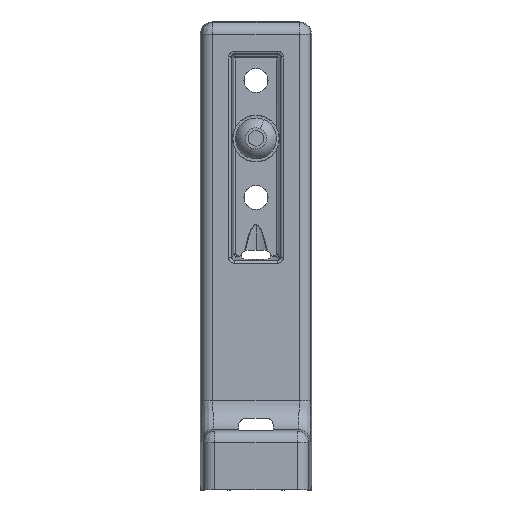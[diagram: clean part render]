
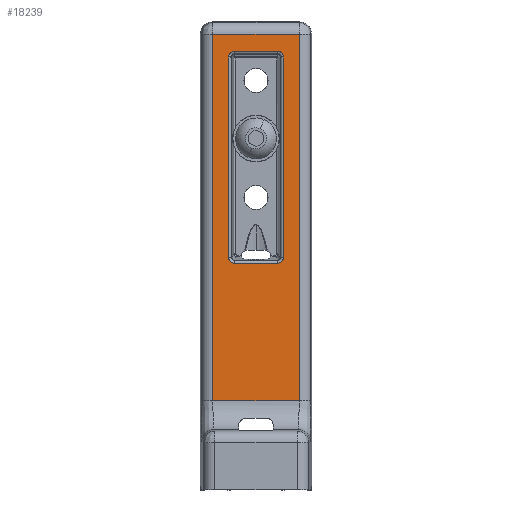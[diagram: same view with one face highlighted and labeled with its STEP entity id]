
A CAD part, top view. The second image highlights one B-rep face of the part: STEP entity #18239.
In plain terms, the highlighted planar face has unit normal (0, 0, 1).
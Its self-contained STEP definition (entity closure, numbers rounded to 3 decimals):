
#492 = CARTESIAN_POINT ( 'NONE',  ( 70.7, 26.998, -7.999 ) ) ;
#711 = CARTESIAN_POINT ( 'NONE',  ( 94.718, -21.474, -7.999 ) ) ;
#778 = CARTESIAN_POINT ( 'NONE',  ( 65.278, -21.474, -7.999 ) ) ;
#1101 = CARTESIAN_POINT ( 'NONE',  ( 89.347, 27.26, -7.999 ) ) ;
#1372 = CARTESIAN_POINT ( 'NONE',  ( 70.649, 27.522, -7.999 ) ) ;
#1616 =( BOUNDED_CURVE ( )  B_SPLINE_CURVE ( 3, ( #9388, #20930, #15181, #3750 ),
 .UNSPECIFIED., .F., .T. ) 
 B_SPLINE_CURVE_WITH_KNOTS ( ( 4, 4 ),
 ( 0., 1. ),
 .UNSPECIFIED. ) 
 CURVE ( )  GEOMETRIC_REPRESENTATION_ITEM ( )  RATIONAL_B_SPLINE_CURVE ( ( 1., 0.805, 0.805, 1. ) ) 
 REPRESENTATION_ITEM ( '' )  );
#2126 = ORIENTED_EDGE ( 'NONE', *, *, #23985, .F. ) ;
#2131 = EDGE_CURVE ( 'NONE', #10157, #3300, #21967, .T. ) ;
#2452 = CARTESIAN_POINT ( 'NONE',  ( 71.048, 26.293, -7.999 ) ) ;
#2489 = LINE ( 'NONE', #9776, #24761 ) ;
#2714 = VERTEX_POINT ( 'NONE', #1372 ) ;
#2727 = EDGE_CURVE ( 'NONE', #9991, #10157, #2489, .T. ) ;
#3039 = VECTOR ( 'NONE', #14073, 1000. ) ;
#3056 = ORIENTED_EDGE ( 'NONE', *, *, #20333, .F. ) ;
#3085 = DIRECTION ( 'NONE',  ( 0., -1., 0. ) ) ;
#3099 = AXIS2_PLACEMENT_3D ( 'NONE', #12829, #5371, #18773 ) ;
#3138 = EDGE_CURVE ( 'NONE', #17797, #20110, #9704, .T. ) ;
#3300 = VERTEX_POINT ( 'NONE', #711 ) ;
#3371 = B_SPLINE_CURVE_WITH_KNOTS ( 'NONE', 3,
 ( #16358, #6807, #20259, #8712, #22176, #10625, #24139, #12548, #1101, #14497 ),
 .UNSPECIFIED., .F., .F.,
 ( 4, 2, 2, 2, 4 ),
 ( 0., 0.25, 0.5, 0.75, 1. ),
 .UNSPECIFIED. ) ;
#3379 = FACE_BOUND ( 'NONE', #17095, .T. ) ;
#3750 = CARTESIAN_POINT ( 'NONE',  ( 87.398, 97.95, -7.999 ) ) ;
#4137 = ORIENTED_EDGE ( 'NONE', *, *, #13045, .F. ) ;
#4394 = CARTESIAN_POINT ( 'NONE',  ( 71.638, 25.776, -7.999 ) ) ;
#4451 = CARTESIAN_POINT ( 'NONE',  ( 70.649, 97.143, -7.999 ) ) ;
#4562 = LINE ( 'NONE', #22681, #19288 ) ;
#4684 = CARTESIAN_POINT ( 'NONE',  ( 70.649, 96.001, -7.999 ) ) ;
#4924 = EDGE_CURVE ( 'NONE', #20110, #17683, #10972, .T. ) ;
#5291 = DIRECTION ( 'NONE',  ( 1., 0., 0. ) ) ;
#5371 = DIRECTION ( 'NONE',  ( 0., 0., -1. ) ) ;
#5838 = ORIENTED_EDGE ( 'NONE', *, *, #2727, .F. ) ;
#5906 = CARTESIAN_POINT ( 'NONE',  ( 94.718, -31.999, -7.999 ) ) ;
#5978 = CARTESIAN_POINT ( 'NONE',  ( 87.353, 25.524, -7.999 ) ) ;
#6179 = VERTEX_POINT ( 'NONE', #778 ) ;
#6297 = CARTESIAN_POINT ( 'NONE',  ( 72.381, 25.524, -7.999 ) ) ;
#6576 = CARTESIAN_POINT ( 'NONE',  ( 72.598, 97.95, -7.999 ) ) ;
#6730 = LINE ( 'NONE', #7821, #19034 ) ;
#6775 = CARTESIAN_POINT ( 'NONE',  ( 87.398, 97.95, -7.999 ) ) ;
#6807 = CARTESIAN_POINT ( 'NONE',  ( 87.614, 25.524, -7.999 ) ) ;
#6840 = CARTESIAN_POINT ( 'NONE',  ( 65.278, 103.721, -7.999 ) ) ;
#6919 = CARTESIAN_POINT ( 'NONE',  ( 98.998, 97.95, -7.999 ) ) ;
#7555 = LINE ( 'NONE', #21826, #3039 ) ;
#7821 = CARTESIAN_POINT ( 'NONE',  ( 98.998, -21.474, -7.999 ) ) ;
#7922 = VERTEX_POINT ( 'NONE', #17216 ) ;
#8399 = EDGE_LOOP ( 'NONE', ( #23956, #5838, #2126, #19064 ) ) ;
#8712 = CARTESIAN_POINT ( 'NONE',  ( 88.358, 25.776, -7.999 ) ) ;
#9388 = CARTESIAN_POINT ( 'NONE',  ( 89.347, 96.001, -7.999 ) ) ;
#9704 = LINE ( 'NONE', #6919, #14463 ) ;
#9776 = CARTESIAN_POINT ( 'NONE',  ( 98.998, 103.721, -7.999 ) ) ;
#9871 = VERTEX_POINT ( 'NONE', #15960 ) ;
#9936 = CARTESIAN_POINT ( 'NONE',  ( 89.347, 27.522, -7.999 ) ) ;
#9991 = VERTEX_POINT ( 'NONE', #6840 ) ;
#10049 = CARTESIAN_POINT ( 'NONE',  ( 70.649, 27.26, -7.999 ) ) ;
#10157 = VERTEX_POINT ( 'NONE', #13837 ) ;
#10368 = B_SPLINE_CURVE_WITH_KNOTS ( 'NONE', 3,
 ( #23530, #10049, #492, #13899, #2452, #15816, #4394, #17766, #6297, #19721 ),
 .UNSPECIFIED., .F., .F.,
 ( 4, 2, 2, 2, 4 ),
 ( 0., 0.25, 0.5, 0.75, 1. ),
 .UNSPECIFIED. ) ;
#10625 = CARTESIAN_POINT ( 'NONE',  ( 88.948, 26.293, -7.999 ) ) ;
#10673 = EDGE_CURVE ( 'NONE', #3300, #6179, #6730, .T. ) ;
#10972 =( BOUNDED_CURVE ( )  B_SPLINE_CURVE ( 3, ( #20074, #21443, #4451, #4684 ),
 .UNSPECIFIED., .F., .T. ) 
 B_SPLINE_CURVE_WITH_KNOTS ( ( 4, 4 ),
 ( 0., 1. ),
 .UNSPECIFIED. ) 
 CURVE ( )  GEOMETRIC_REPRESENTATION_ITEM ( )  RATIONAL_B_SPLINE_CURVE ( ( 1., 0.805, 0.805, 1. ) ) 
 REPRESENTATION_ITEM ( '' )  );
#11644 = DIRECTION ( 'NONE',  ( -1., 0., 0. ) ) ;
#11787 = EDGE_CURVE ( 'NONE', #2714, #7922, #10368, .T. ) ;
#12548 = CARTESIAN_POINT ( 'NONE',  ( 89.295, 26.998, -7.999 ) ) ;
#12829 = CARTESIAN_POINT ( 'NONE',  ( 98.998, -31.999, -7.999 ) ) ;
#12976 = VECTOR ( 'NONE', #3085, 1000. ) ;
#13045 = EDGE_CURVE ( 'NONE', #17683, #2714, #17814, .T. ) ;
#13268 = ORIENTED_EDGE ( 'NONE', *, *, #3138, .F. ) ;
#13314 = VERTEX_POINT ( 'NONE', #5978 ) ;
#13606 = ORIENTED_EDGE ( 'NONE', *, *, #24744, .F. ) ;
#13837 = CARTESIAN_POINT ( 'NONE',  ( 94.718, 103.721, -7.999 ) ) ;
#13899 = CARTESIAN_POINT ( 'NONE',  ( 70.9, 26.515, -7.999 ) ) ;
#14073 = DIRECTION ( 'NONE',  ( 0., 1., 0. ) ) ;
#14463 = VECTOR ( 'NONE', #22207, 1000. ) ;
#14497 = CARTESIAN_POINT ( 'NONE',  ( 89.347, 27.522, -7.999 ) ) ;
#14806 = FACE_OUTER_BOUND ( 'NONE', #8399, .T. ) ;
#15181 = CARTESIAN_POINT ( 'NONE',  ( 88.539, 97.95, -7.999 ) ) ;
#15512 = DIRECTION ( 'NONE',  ( 0., -1., 0. ) ) ;
#15808 = ORIENTED_EDGE ( 'NONE', *, *, #24222, .F. ) ;
#15816 = CARTESIAN_POINT ( 'NONE',  ( 71.416, 25.924, -7.999 ) ) ;
#15846 = ORIENTED_EDGE ( 'NONE', *, *, #11787, .F. ) ;
#15960 = CARTESIAN_POINT ( 'NONE',  ( 89.347, 96.001, -7.999 ) ) ;
#16358 = CARTESIAN_POINT ( 'NONE',  ( 87.353, 25.524, -7.999 ) ) ;
#16517 = VERTEX_POINT ( 'NONE', #9936 ) ;
#16563 = CARTESIAN_POINT ( 'NONE',  ( 70.649, -31.999, -7.999 ) ) ;
#16731 = CARTESIAN_POINT ( 'NONE',  ( 98.998, 25.524, -7.999 ) ) ;
#17095 = EDGE_LOOP ( 'NONE', ( #22094, #13268, #3056, #15808, #22071, #13606, #15846, #4137 ) ) ;
#17216 = CARTESIAN_POINT ( 'NONE',  ( 72.642, 25.524, -7.999 ) ) ;
#17683 = VERTEX_POINT ( 'NONE', #23854 ) ;
#17766 = CARTESIAN_POINT ( 'NONE',  ( 72.12, 25.576, -7.999 ) ) ;
#17797 = VERTEX_POINT ( 'NONE', #6775 ) ;
#17814 = LINE ( 'NONE', #16563, #12976 ) ;
#18239 = ADVANCED_FACE ( 'NONE', ( #14806, #3379 ), #18689, .F. ) ;
#18243 = EDGE_CURVE ( 'NONE', #13314, #16517, #3371, .T. ) ;
#18689 = PLANE ( 'NONE',  #3099 ) ;
#18773 = DIRECTION ( 'NONE',  ( -1., 0., 0. ) ) ;
#19034 = VECTOR ( 'NONE', #11644, 1000. ) ;
#19064 = ORIENTED_EDGE ( 'NONE', *, *, #10673, .F. ) ;
#19288 = VECTOR ( 'NONE', #24646, 1000. ) ;
#19721 = CARTESIAN_POINT ( 'NONE',  ( 72.642, 25.524, -7.999 ) ) ;
#20074 = CARTESIAN_POINT ( 'NONE',  ( 72.598, 97.95, -7.999 ) ) ;
#20110 = VERTEX_POINT ( 'NONE', #6576 ) ;
#20259 = CARTESIAN_POINT ( 'NONE',  ( 87.875, 25.576, -7.999 ) ) ;
#20333 = EDGE_CURVE ( 'NONE', #9871, #17797, #1616, .T. ) ;
#20930 = CARTESIAN_POINT ( 'NONE',  ( 89.347, 97.143, -7.999 ) ) ;
#21364 = VECTOR ( 'NONE', #5291, 1000. ) ;
#21443 = CARTESIAN_POINT ( 'NONE',  ( 71.456, 97.95, -7.999 ) ) ;
#21826 = CARTESIAN_POINT ( 'NONE',  ( 65.278, -31.999, -7.999 ) ) ;
#21967 = LINE ( 'NONE', #5906, #23826 ) ;
#22071 = ORIENTED_EDGE ( 'NONE', *, *, #18243, .F. ) ;
#22094 = ORIENTED_EDGE ( 'NONE', *, *, #4924, .F. ) ;
#22176 = CARTESIAN_POINT ( 'NONE',  ( 88.579, 25.924, -7.999 ) ) ;
#22207 = DIRECTION ( 'NONE',  ( -1., 0., 0. ) ) ;
#22681 = CARTESIAN_POINT ( 'NONE',  ( 89.347, -31.999, -7.999 ) ) ;
#22876 = LINE ( 'NONE', #16731, #21364 ) ;
#23530 = CARTESIAN_POINT ( 'NONE',  ( 70.649, 27.522, -7.999 ) ) ;
#23826 = VECTOR ( 'NONE', #15512, 1000. ) ;
#23854 = CARTESIAN_POINT ( 'NONE',  ( 70.649, 96.001, -7.999 ) ) ;
#23956 = ORIENTED_EDGE ( 'NONE', *, *, #2131, .F. ) ;
#23985 = EDGE_CURVE ( 'NONE', #6179, #9991, #7555, .T. ) ;
#24051 = DIRECTION ( 'NONE',  ( 1., 0., 0. ) ) ;
#24139 = CARTESIAN_POINT ( 'NONE',  ( 89.095, 26.515, -7.999 ) ) ;
#24222 = EDGE_CURVE ( 'NONE', #16517, #9871, #4562, .T. ) ;
#24646 = DIRECTION ( 'NONE',  ( 0., 1., 0. ) ) ;
#24744 = EDGE_CURVE ( 'NONE', #7922, #13314, #22876, .T. ) ;
#24761 = VECTOR ( 'NONE', #24051, 1000. ) ;
